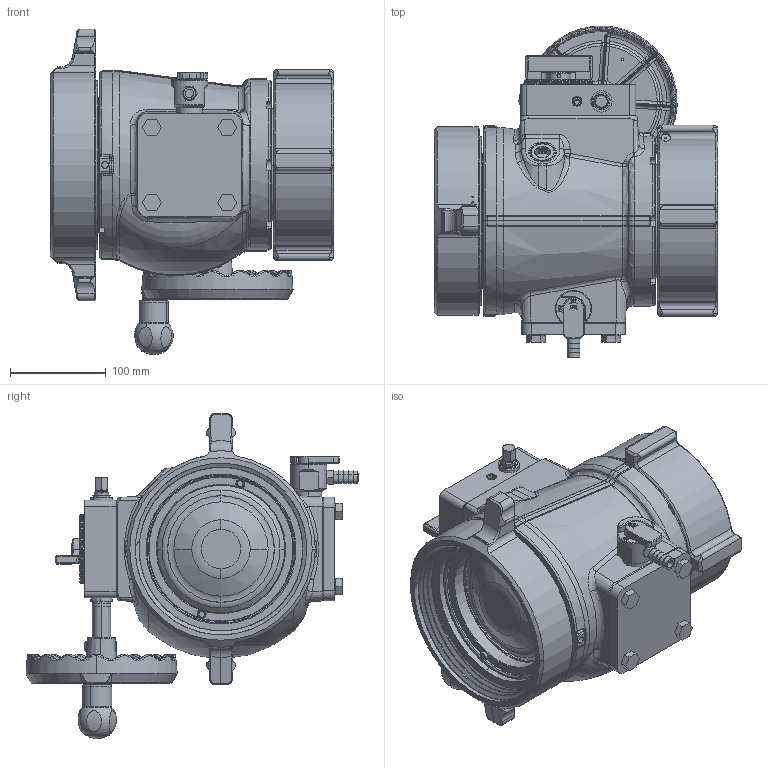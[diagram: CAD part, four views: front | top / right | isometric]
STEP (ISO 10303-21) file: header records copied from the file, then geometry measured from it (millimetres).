
FILE_DESCRIPTION (( 'STEP AP203' ), '1' );
FILE_NAME ('AQ7NT-NX.step', '2014-05-13T19:17:22', ( 'user' ), ( '' ), 'SwSTEP 2.0', 'SolidWorks 2012', '' );
FILE_SCHEMA (( 'CONFIG_CONTROL_DESIGN' ));
Length unit declared in the file: inch
Products named in the file (1): AQ7NT-NX
Bounding box: 295.85 x 346.52 x 339.79 mm (x, y, z)
Surface area: 581916.9 mm2 (no closed solid volume)
Topology: 0 solids, 151 shells, 1844 faces, 8970 edges, 7115 vertices
Faces by surface type: plane 649, cylinder 381, bspline 358, cone 265, torus 163, sphere 28
Entity records: 124312 total; most frequent: CARTESIAN_POINT 59815, ORIENTED_EDGE 12530, DIRECTION 11452, EDGE_CURVE 8943, VERTEX_POINT 7111, VECTOR 4326, LINE 4326, AXIS2_PLACEMENT_3D 3563
